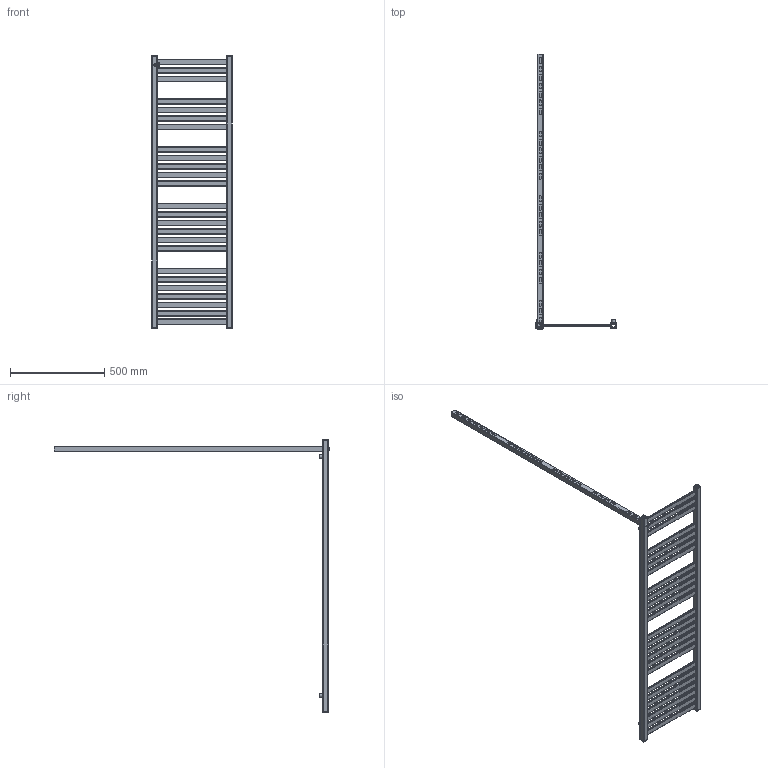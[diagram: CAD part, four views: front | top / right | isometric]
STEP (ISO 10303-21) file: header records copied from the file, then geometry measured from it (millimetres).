
FILE_DESCRIPTION( ( 'Unknown' ), '1' );
FILE_NAME( 'D:/Alplast sp. j/Witryna zespoBu - Projekty/Archiwum/Grzejniki Archiwum/Projekty/STANDARD/AK-EP/AK6-400EP.stp', 'Unknown', ( 'Unknown' ), ( 'Unknown' ), 'PSStep 10.1', 'Unknown', ' ' );
FILE_SCHEMA( ( 'AUTOMOTIVE_DESIGN { 1 0 10303 214 1 1 1 1 }' ) );
Length unit declared in the file: millimetre
Products named in the file (5): Assem1; zaslepka kwadrat otwor; AK6-EPEL; kana³  poziomy 30x10  400; mocowanie
Bounding box: 430 x 1464 x 1450.13 mm (x, y, z)
Volume: 1739127.7 mm3; surface area: 2344791.5 mm2
Topology: 39 solids, 39 shells, 1184 faces, 3288 edges, 2192 vertices
Faces by surface type: plane 660, cylinder 514, torus 10
Full cylindrical faces by diameter (mm): 16 x5, 18 x5, 18.631 x5, 23 x5
Entity records: 11067 total; most frequent: DIRECTION 1591, CARTESIAN_POINT 1542, ORIENTED_EDGE 1490, EDGE_CURVE 745, AXIS2_PLACEMENT_3D 549, VERTEX_POINT 500, LINE 493, VECTOR 493
